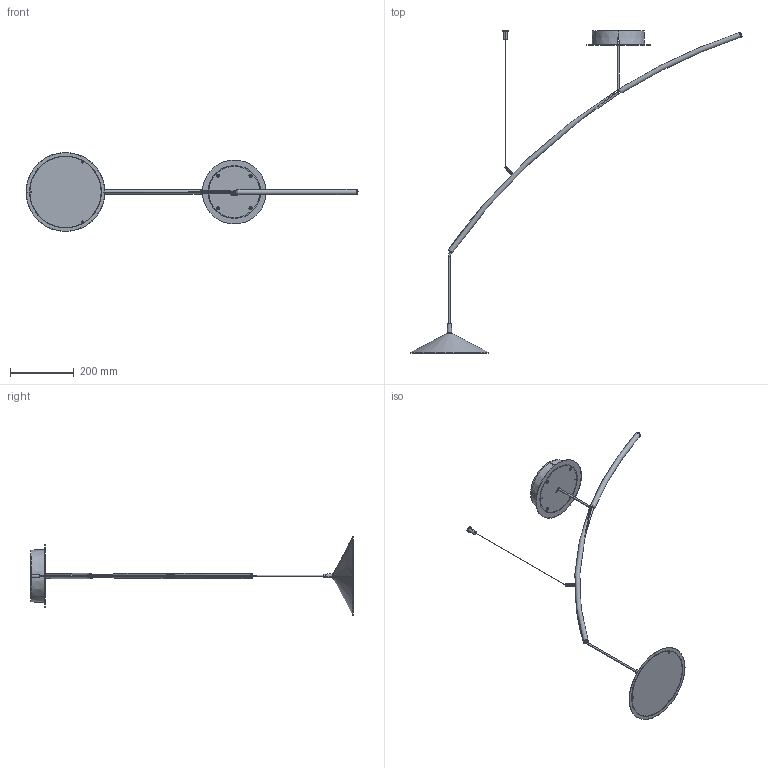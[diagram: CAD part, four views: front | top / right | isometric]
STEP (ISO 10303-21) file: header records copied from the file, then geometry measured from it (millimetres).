
FILE_DESCRIPTION((''),'2;1');
FILE_NAME('SOFFITTO_SW0001','2025-05-15T09:10:03',('elena.baldelli'),(''),'CREO PARAMETRIC BY PTC INC, 2020354','CREO PARAMETRIC BY PTC INC, 2020354','');
FILE_SCHEMA(('CONFIG_CONTROL_DESIGN'));
Length unit declared in the file: millimetre
Products named in the file (1): SOFFITTO_SW0001
Bounding box: 1038.25 x 1007.05 x 246.92 mm (x, y, z)
Surface area: 359102.4 mm2 (no closed solid volume)
Topology: 0 solids, 31 shells, 232 faces, 662 edges, 446 vertices
Faces by surface type: cylinder 123, plane 42, cone 32, torus 30, bspline 3, sphere 2
Entity records: 12869 total; most frequent: CARTESIAN_POINT 6893, DIRECTION 1310, ORIENTED_EDGE 1124, EDGE_CURVE 654, AXIS2_PLACEMENT_3D 557, VERTEX_POINT 446, CIRCLE 328, EDGE_LOOP 253
